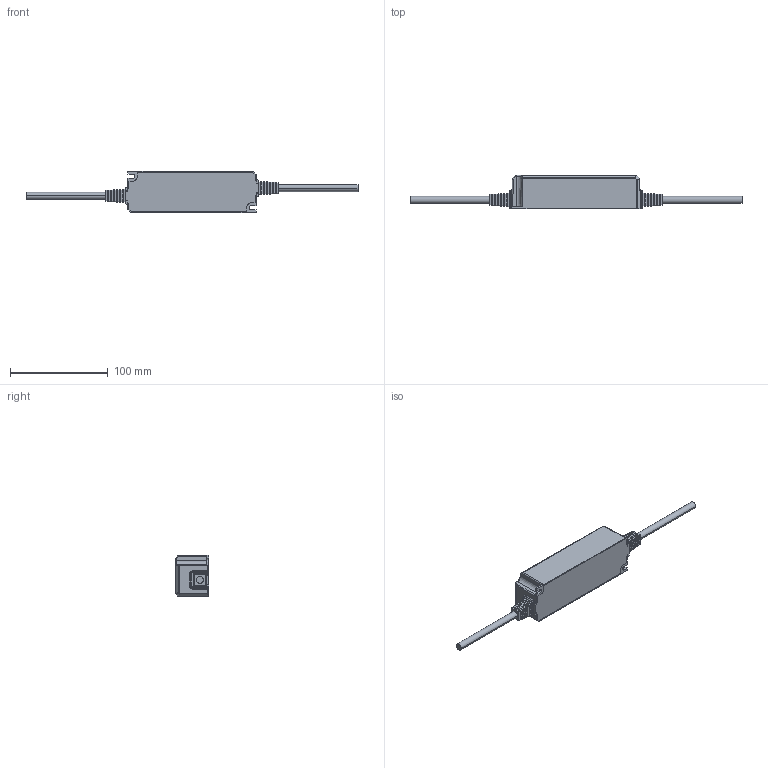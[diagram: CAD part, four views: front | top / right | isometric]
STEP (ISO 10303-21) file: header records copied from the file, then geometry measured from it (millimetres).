
FILE_DESCRIPTION((''),'2;1');
FILE_NAME('ED-S_30W12VL_IP67_ASM_1_ASM','2016-10-31T',('017263'),(''),'CREO PARAMETRIC BY PTC INC, 2014440','CREO PARAMETRIC BY PTC INC, 2014440','');
FILE_SCHEMA(('CONFIG_CONTROL_DESIGN'));
Length unit declared in the file: millimetre
Products named in the file (4): SHANGGAI_1; DIGAI_1; XIANKA_1; ED-S_30W12VL_IP67_ASM_1_ASM
Assembly tree (4 placements, depth 2):
  ED-S_30W12VL_IP67_ASM_1_ASM
    SHANGGAI_1
    DIGAI_1
    XIANKA_1  x2
Bounding box: 338.8 x 34 x 42.03 mm (x, y, z)
Volume: 45195.6 mm3; surface area: 54060.9 mm2
Topology: 4 solids, 4 shells, 694 faces, 1940 edges, 1250 vertices
Faces by surface type: plane 466, cylinder 184, sphere 20, extrusion 8, torus 6, cone 6, bspline 4
Entity records: 21335 total; most frequent: CARTESIAN_POINT 3793, ORIENTED_EDGE 2832, DIRECTION 2532, PRESENTATION_STYLE_ASSIGNMENT 1419, STYLED_ITEM 1419, CURVE_STYLE 1416, EDGE_CURVE 1416, VECTOR 1132
